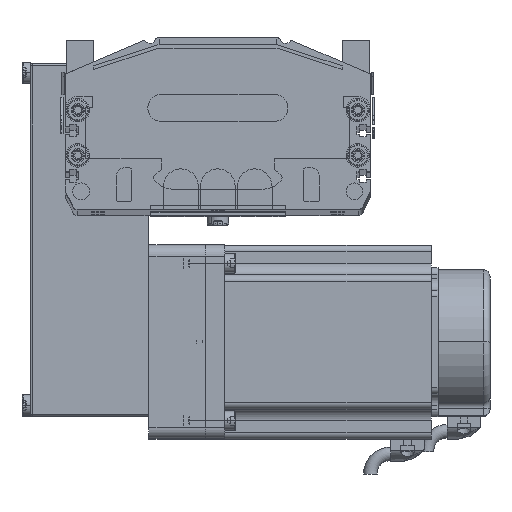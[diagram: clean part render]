
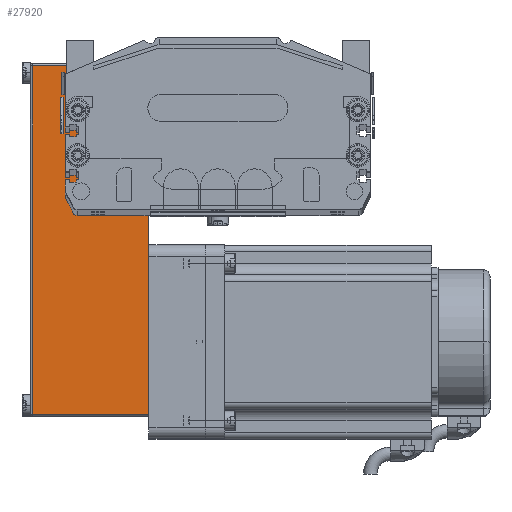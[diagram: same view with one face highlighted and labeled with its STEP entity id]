
A CAD part, top view. The second image highlights one B-rep face of the part: STEP entity #27920.
In plain terms, the highlighted planar face has unit normal (0, 0, 1) as drawn and (0, -1, 0) by its records, which use the part's own axes.
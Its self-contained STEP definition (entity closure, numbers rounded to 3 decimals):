
#24026 = CARTESIAN_POINT ( 'NONE',  ( 31., -40., 52.5 ) ) ;
#24027 = LINE ( 'NONE', #24026, #24067 ) ;
#24034 = LINE ( 'NONE', #24043, #24055 ) ;
#24043 = CARTESIAN_POINT ( 'NONE',  ( 32., -40., 51.5 ) ) ;
#24054 = DIRECTION ( 'NONE',  ( -1., 0., 0. ) ) ;
#24055 = VECTOR ( 'NONE', #24054, 1000. ) ;
#24066 = DIRECTION ( 'NONE',  ( 0., 0., 1. ) ) ;
#24067 = VECTOR ( 'NONE', #24066, 1000. ) ;
#24114 = DIRECTION ( 'NONE',  ( 0., 0., -1. ) ) ;
#24115 = VECTOR ( 'NONE', #24114, 1000. ) ;
#24116 = CARTESIAN_POINT ( 'NONE',  ( -123.2, -40., 52.5 ) ) ;
#24122 = LINE ( 'NONE', #24116, #24115 ) ;
#27336 = CARTESIAN_POINT ( 'NONE',  ( 31., -40., 51.5 ) ) ;
#27390 = VERTEX_POINT ( 'NONE', #76843 ) ;
#27440 = VERTEX_POINT ( 'NONE', #77119 ) ;
#27445 = EDGE_CURVE ( 'NONE', #27440, #27390, #77073, .T. ) ;
#27867 = VERTEX_POINT ( 'NONE', #35693 ) ;
#27913 = EDGE_LOOP ( 'NONE', ( #28015, #28097, #28100, #27962 ) ) ;
#27920 = ADVANCED_FACE ( 'NONE', ( #35739 ), #35222, .F. ) ;
#27962 = ORIENTED_EDGE ( 'NONE', *, *, #28091, .T. ) ;
#28015 = ORIENTED_EDGE ( 'NONE', *, *, #27445, .T. ) ;
#28073 = VERTEX_POINT ( 'NONE', #27336 ) ;
#28078 = EDGE_CURVE ( 'NONE', #27390, #28073, #24027, .T. ) ;
#28091 = EDGE_CURVE ( 'NONE', #27867, #27440, #24122, .T. ) ;
#28097 = ORIENTED_EDGE ( 'NONE', *, *, #28078, .T. ) ;
#28098 = EDGE_CURVE ( 'NONE', #28073, #27867, #24034, .T. ) ;
#28100 = ORIENTED_EDGE ( 'NONE', *, *, #28098, .T. ) ;
#35210 = DIRECTION ( 'NONE',  ( -1., 0., 0. ) ) ;
#35211 = DIRECTION ( 'NONE',  ( 0., 1., 0. ) ) ;
#35213 = CARTESIAN_POINT ( 'NONE',  ( 32., -40., 52.5 ) ) ;
#35222 = PLANE ( 'NONE',  #35312 ) ;
#35312 = AXIS2_PLACEMENT_3D ( 'NONE', #35213, #35211, #35210 ) ;
#35693 = CARTESIAN_POINT ( 'NONE',  ( -123.2, -40., 51.5 ) ) ;
#35739 = FACE_OUTER_BOUND ( 'NONE', #27913, .T. ) ;
#76843 = CARTESIAN_POINT ( 'NONE',  ( 31., -40., 0. ) ) ;
#77070 = DIRECTION ( 'NONE',  ( 1., 0., 0. ) ) ;
#77071 = VECTOR ( 'NONE', #77070, 1000. ) ;
#77072 = CARTESIAN_POINT ( 'NONE',  ( 32., -40., 0. ) ) ;
#77073 = LINE ( 'NONE', #77072, #77071 ) ;
#77119 = CARTESIAN_POINT ( 'NONE',  ( -123.2, -40., 0. ) ) ;
